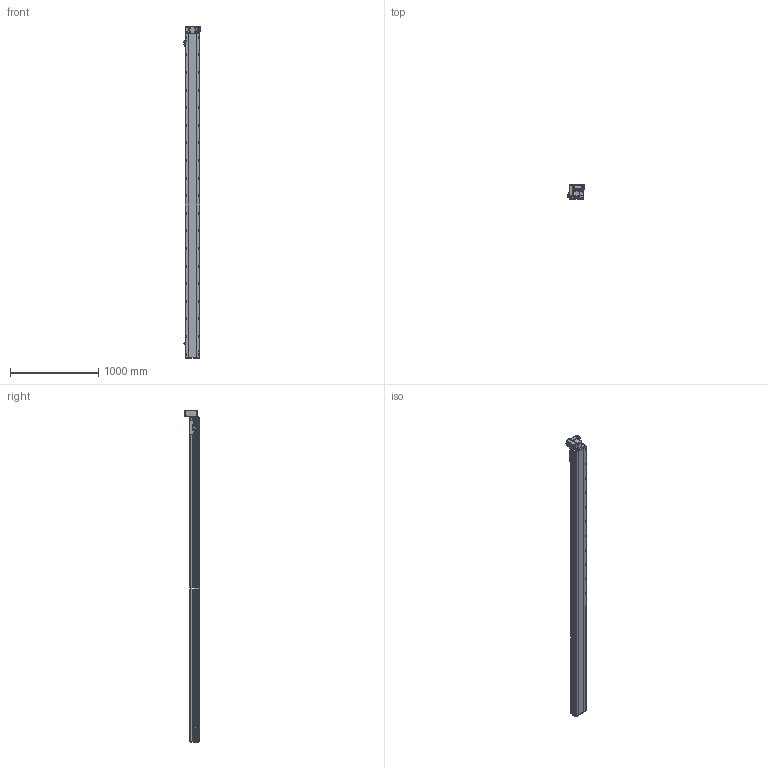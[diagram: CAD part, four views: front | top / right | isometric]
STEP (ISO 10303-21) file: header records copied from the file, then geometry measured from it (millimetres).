
FILE_DESCRIPTION (( 'STEP AP214' ), '1' );
FILE_NAME ('RTB17S-XX-3400-LW-M40-C4.STEP', '2025-12-11T07:23:48', ( '' ), ( '' ), 'SwSTEP 2.0', 'SolidWorks 2018', '' );
FILE_SCHEMA (( 'AUTOMOTIVE_DESIGN' ));
Length unit declared in the file: millimetre
Products named in the file (14): RTB17S-L-014-T20--々湍釱^RTB17S-LW-々湍釱蚾饜-400W_RTB17S-XX-XX-LW-M40-C4; OMRON EE-SX672 传感器^RTB17S-XX-XX-LW-M40-C4; RTB17S-L-004佪裝蹟譫蟀諉釱^RTB17S-XX-XX-LW-M40-C4; RTB17S-XX-3400-LW-M40-C4; 400W侜督萇儂^RTB17S-XX-XX-LW-M40-C4; RTB17S-L-007奻裔^RTB17S-XX-XX-LW-M40-C4; RTB14-L-005P--轴承塑胶压盖^RTB17S-LW-皮带座装配-400W_RTB17S-XX-XX-LW-M40-C4; RTB14-L-018P^RTB17S-LW-々湍釱蚾饜-400W_RTB17S-XX-XX-LW-M40-C4; RTB17S-LW-々湍釱蚾饜-400W^RTB17S-XX-XX-LW-M40-C4; RTB14-L-017P^RTB17S-LW-々湍釱蚾饜-400W_RTB17S-XX-XX-LW-M40-C4; RTB14-L-008-M20--萇儂啣^RTB17S-LW-々湍釱蚾饜-400W_RTB17S-XX-XX-LW-M40-C4; RTB17-R-011菁釱^RTB17S-XX-XX-LW-M40-C4; RTB17S-L-001耜醱啣^RTB17S-XX-XX-LW-M40-C4; RTH13-BL-012覜茼え俋离^RTB17S-XX-XX-LW-M40-C4
Assembly tree (16 placements, depth 3):
  RTB17S-XX-3400-LW-M40-C4
    RTB17-R-011菁釱^RTB17S-XX-XX-LW-M40-C4
    RTB17S-L-007奻裔^RTB17S-XX-XX-LW-M40-C4
    OMRON EE-SX672 传感器^RTB17S-XX-XX-LW-M40-C4  x3
    RTB17S-L-001耜醱啣^RTB17S-XX-XX-LW-M40-C4
    400W侜督萇儂^RTB17S-XX-XX-LW-M40-C4
    RTB17S-L-004佪裝蹟譫蟀諉釱^RTB17S-XX-XX-LW-M40-C4
    RTH13-BL-012覜茼え俋离^RTB17S-XX-XX-LW-M40-C4
    RTB17S-LW-々湍釱蚾饜-400W^RTB17S-XX-XX-LW-M40-C4
      RTB17S-L-014-T20--々湍釱^RTB17S-LW-々湍釱蚾饜-400W_RTB17S-XX-XX-LW-M40-C4
      RTB14-L-005P--轴承塑胶压盖^RTB17S-LW-皮带座装配-400W_RTB17S-XX-XX-LW-M40-C4
      RTB14-L-008-M20--萇儂啣^RTB17S-LW-々湍釱蚾饜-400W_RTB17S-XX-XX-LW-M40-C4
      RTB14-L-017P^RTB17S-LW-々湍釱蚾饜-400W_RTB17S-XX-XX-LW-M40-C4  x2
      RTB14-L-018P^RTB17S-LW-々湍釱蚾饜-400W_RTB17S-XX-XX-LW-M40-C4
Bounding box: 186 x 160.5 x 3772.5 mm (x, y, z)
Volume: 31948757.7 mm3; surface area: 3631464.8 mm2
Topology: 15 solids, 15 shells, 2397 faces, 6735 edges, 4401 vertices
Faces by surface type: plane 1092, cylinder 857, bspline 301, cone 139, torus 8
Entity records: 71849 total; most frequent: CARTESIAN_POINT 20540, ORIENTED_EDGE 10314, DIRECTION 9476, EDGE_CURVE 5157, VERTEX_POINT 3389, AXIS2_PLACEMENT_3D 3319, LINE 2838, VECTOR 2838
